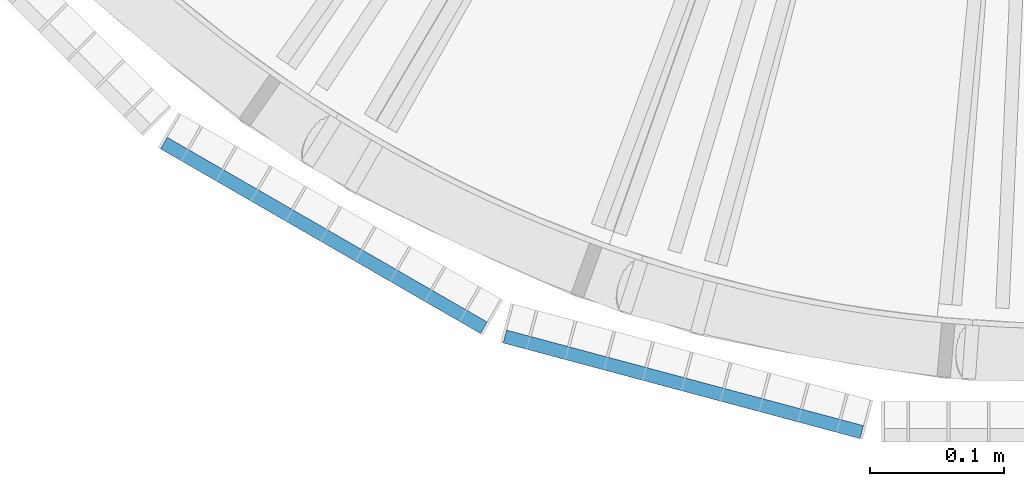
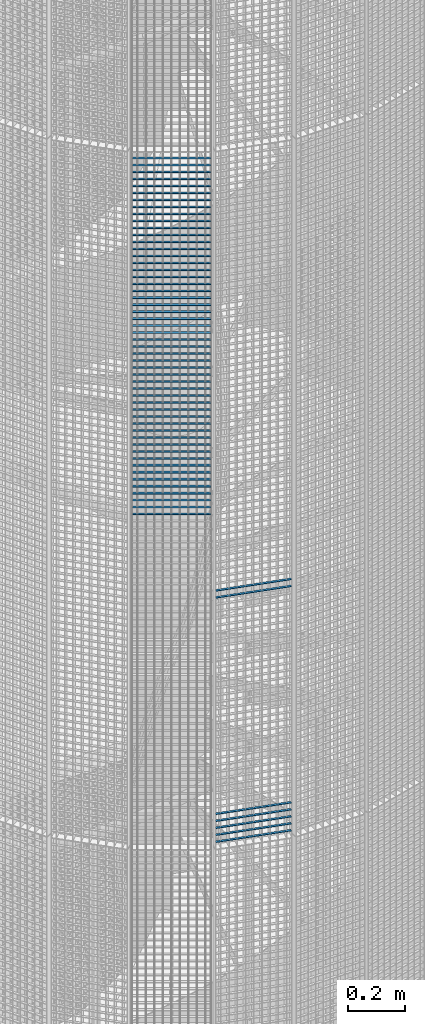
# One storey, part 153 of 1183: 59 beams, 2 elements without a shape of their own.
"""IFC2X3 building model written with IfcOpenShell, lengths in millimetres."""

import ifcopenshell
import ifcopenshell.guid

model = None  # the IFC model being written
_history = None  # IfcOwnerHistory: only IFC2X3 demands one
_inside = {}  # id of a spatial element -> (the spatial element, [elements in it])
_under = {}  # id of a project, library or spatial element -> (it, [spatial elements below it])
_declared = {}  # id of a project -> (the project, [libraries it declares])
_typed = {}  # id of a type object -> (the type object, [elements of that type])
_made_of = {}  # id of a material, layer set ... -> (it, [elements and type objects made of it])


def new_model(schema):
    """Start an empty IFC model of exactly this schema.

    Asked for "IFC4X3", IfcOpenShell would pick the latest addendum, in which some entities
    have other attributes; the version numbers below select the first issue.
    IFC2X3 requires an IfcOwnerHistory on every rooted entity: one is made here for all.
    """
    global model, _history
    if schema == "IFC4X3":
        model = ifcopenshell.file(schema_version=(4, 3, 0, 0))
    else:
        model = ifcopenshell.file(schema=schema)
    _inside.clear()
    _under.clear()
    _declared.clear()
    _typed.clear()
    _made_of.clear()
    _history = None
    if model.schema == "IFC2X3":
        org = make("IfcOrganization", Name="unknown")
        user = make(
            "IfcPersonAndOrganization",
            ThePerson=make("IfcPerson", FamilyName="unknown"),
            TheOrganization=org,
        )
        app = make(
            "IfcApplication",
            ApplicationDeveloper=org,
            Version="unknown",
            ApplicationFullName="unknown",
            ApplicationIdentifier="unknown",
        )
        _history = make(
            "IfcOwnerHistory",
            OwningUser=user,
            OwningApplication=app,
            ChangeAction="ADDED",
            CreationDate=0,
        )
    return model


def make(cls, **values):
    """One entity of the class cls with the attributes given. An attribute that is None is left unset."""
    return model.create_entity(
        cls, **{name: value for name, value in values.items() if value is not None}
    )


def rooted(cls, **values):
    """An entity with a GlobalId (a new one), such as an element, a storey or a relation."""
    return make(cls, GlobalId=ifcopenshell.guid.new(), OwnerHistory=_history, **values)


def si_unit(unit_type, name, prefix=None):
    """IfcSIUnit, for example si_unit("LENGTHUNIT", "METRE", prefix="MILLI")."""
    return make("IfcSIUnit", UnitType=unit_type, Prefix=prefix, Name=name)


def assignment(units):
    """IfcUnitAssignment: the units of a project."""
    return None if units is None else make("IfcUnitAssignment", Units=units)


def point(xyz):
    """IfcCartesianPoint."""
    return None if xyz is None else make("IfcCartesianPoint", Coordinates=xyz)


def direction(xyz):
    """IfcDirection."""
    return None if xyz is None else make("IfcDirection", DirectionRatios=xyz)


def frame(location, z_axis=None, x_axis=None):
    """IfcAxis2Placement3D, a coordinate frame: its origin and axes. An axis left out is left unset."""
    return make(
        "IfcAxis2Placement3D",
        Location=point(location),
        Axis=direction(z_axis),
        RefDirection=direction(x_axis),
    )


def frame_2d(location, x_axis=None):
    """IfcAxis2Placement2D, a coordinate frame in the plane: its origin and x axis."""
    return make(
        "IfcAxis2Placement2D", Location=point(location), RefDirection=direction(x_axis)
    )


def origin_with_axes():
    """The frame at (0, 0, 0) with the z axis (0, 0, 1) and the x axis (1, 0, 0) written out."""
    return frame((0.0, 0.0, 0.0), z_axis=(0.0, 0.0, 1.0), x_axis=(1.0, 0.0, 0.0))


def origin_2d_with_axis():
    """The frame at (0, 0) in the plane with the x axis (1, 0) written out."""
    return frame_2d((0.0, 0.0), x_axis=(1.0, 0.0))


def place(relative_to, where):
    """IfcLocalPlacement: puts the frame where relative to a parent placement (None: the world)."""
    return make(
        "IfcLocalPlacement", PlacementRelTo=relative_to, RelativePlacement=where
    )


def context(
    kind, dimensions, precision=None, world=None, true_north=None, identifier=None
):
    """IfcGeometricRepresentationContext, for example the 3D "Model" context."""
    return make(
        "IfcGeometricRepresentationContext",
        ContextIdentifier=identifier,
        ContextType=kind,
        CoordinateSpaceDimension=dimensions,
        Precision=precision,
        WorldCoordinateSystem=world,
        TrueNorth=true_north,
    )


def subcontext(parent, identifier, kind, view, scale=None):
    """IfcGeometricRepresentationSubContext, for example "Body" below "Model"."""
    return make(
        "IfcGeometricRepresentationSubContext",
        ContextIdentifier=identifier,
        ContextType=kind,
        ParentContext=parent,
        TargetScale=scale,
        TargetView=view,
    )


def project(units=None, contexts=None):
    """IfcProject with its units and contexts."""
    return rooted(
        "IfcProject",
        Name="project",
        RepresentationContexts=contexts,
        UnitsInContext=assignment(units),
    )


def spatial(cls, under=None, at=None, **own):
    """A site, building, storey or space (cls), placed at a placement, below another one or the project."""
    s = rooted(cls, ObjectPlacement=at, **own)
    if under is not None:
        _under.setdefault(under.id(), (under, []))[1].append(s)
    return s


def profile(cls, at=None, kind="AREA", **sizes):
    """A parametric profile (cls). Its sizes go by their IFC names, for example OverallWidth=200.0."""
    return make(cls, ProfileType=kind, Position=at, **sizes)


def rectangle(**sizes):
    """IfcRectangleProfileDef."""
    return profile("IfcRectangleProfileDef", **sizes)


def extrude(swept, where, along, depth):
    """IfcExtrudedAreaSolid: the profile swept, set in the frame where, extruded along a direction by depth."""
    return make(
        "IfcExtrudedAreaSolid",
        SweptArea=swept,
        Position=where,
        ExtrudedDirection=direction(along),
        Depth=depth,
    )


def shape(context_of_items, identifier, shape_type, items):
    """IfcShapeRepresentation: the items that make up one representation, for example the "Body"."""
    return make(
        "IfcShapeRepresentation",
        ContextOfItems=context_of_items,
        RepresentationIdentifier=identifier,
        RepresentationType=shape_type,
        Items=items,
    )


def material(Name=None, Category=None):
    """IfcMaterial."""
    return make("IfcMaterial", Name=Name, Category=Category)


def made_of(thing, what):
    """Note that an element or type object is made of a material, layer set ...; save() writes the relation."""
    if what is not None:
        _made_of.setdefault(what.id(), (what, []))[1].append(thing)
    return thing


def type_object(cls, material=None, **own):
    """A type object (cls), such as IfcWallType, which elements share."""
    return made_of(rooted(cls, **own), material)


def element(
    cls,
    number,
    at=None,
    inside=None,
    cuts=None,
    type_object=None,
    material=None,
    context=None,
    identifier="Body",
    shape_type=None,
    held_by="IfcProductDefinitionShape",
    body=None,
    shapes=None,
    **own,
):
    """One element of the class cls, such as IfcWall. Its Tag is "e" and its number.

    at: its placement. inside: the storey or other place that contains it. cuts: it is an
    opening in that element (IfcRelVoidsElement). A single representation is given by context,
    identifier, shape_type and body (its items); several are given by shapes. held_by: the class
    of the entity that holds the representations. save() writes the other relations.
    """
    e = rooted(cls, Tag="e%d" % number, ObjectPlacement=at, **own)
    if body is not None:
        shapes = [shape(context, identifier, shape_type, body)]
    if shapes is not None:
        e.Representation = make(held_by, Representations=shapes)
    if inside is not None:
        _inside.setdefault(inside.id(), (inside, []))[1].append(e)
    if cuts is not None:
        rooted(
            "IfcRelVoidsElement", RelatingBuildingElement=cuts, RelatedOpeningElement=e
        )
    if type_object is not None:
        _typed.setdefault(type_object.id(), (type_object, []))[1].append(e)
    return made_of(e, material)


def aggregate(whole, parts):
    """IfcRelAggregates: a whole, such as a stair, and the parts it consists of."""
    return rooted("IfcRelAggregates", RelatingObject=whole, RelatedObjects=parts)


def save(model, path):
    """Write the relations noted so far, then the file.

    IfcRelAggregates (storeys below a building ...), IfcRelContainedInSpatialStructure (elements
    in a storey), IfcRelDefinesByType, IfcRelAssociatesMaterial and IfcRelDeclares: one each for
    every whole, place, type object, material and project.
    """
    for whole, parts in _under.values():
        aggregate(whole, parts)
    for where, things in _inside.values():
        rooted(
            "IfcRelContainedInSpatialStructure",
            RelatedElements=things,
            RelatingStructure=where,
        )
    for kind, things in _typed.values():
        rooted("IfcRelDefinesByType", RelatedObjects=things, RelatingType=kind)
    for what, things in _made_of.values():
        rooted("IfcRelAssociatesMaterial", RelatedObjects=things, RelatingMaterial=what)
    for by, libraries in _declared.values():
        rooted("IfcRelDeclares", RelatingContext=by, RelatedDefinitions=libraries)
    model.write(path)


model = new_model("IFC2X3")

# Units and contexts
model_context = context("Model", 3, precision=1e-05, world=origin_with_axes())
body_context = subcontext(model_context, "Body", "Model", "MODEL_VIEW")
ifc_project = project(units=[si_unit("LENGTHUNIT", "METRE", prefix="MILLI"), si_unit("AREAUNIT", "SQUARE_METRE"), si_unit("VOLUMEUNIT", "CUBIC_METRE"), si_unit("MASSUNIT", "GRAM", prefix="KILO"), si_unit("TIMEUNIT", "SECOND"), si_unit("PLANEANGLEUNIT", "RADIAN"), si_unit("SOLIDANGLEUNIT", "STERADIAN"), si_unit("THERMODYNAMICTEMPERATUREUNIT", "DEGREE_CELSIUS"), si_unit("LUMINOUSINTENSITYUNIT", "LUMEN")], contexts=[model_context])

# Site, building, storey
site_placement = place(None, origin_with_axes())
site = spatial("IfcSite", under=ifc_project, at=site_placement, Name="Undefined", CompositionType="ELEMENT")
building_placement = place(site_placement, origin_with_axes())
building = spatial("IfcBuilding", under=site, at=building_placement, Name="Undefined", CompositionType="ELEMENT")
storey_placement = place(building_placement, origin_with_axes())
storey = spatial("IfcBuildingStorey", under=building, at=storey_placement, Name="Undefined", CompositionType="ELEMENT", Elevation=0.0)

# Assembly, beams
assembly_1_placement = place(storey_placement, origin_with_axes())
assembly_1 = element("IfcElementAssembly", 1, at=assembly_1_placement, inside=storey, Name="BORDURE", AssemblyPlace="NOTDEFINED", PredefinedType="NOTDEFINED")
ifc_material = material(Name="STEEL/S235JR")
beam_type = type_object("IfcBeamType", Name="PL2*10", PredefinedType="NOTDEFINED")
beam_1_placement = place(assembly_1_placement, frame((-421.483733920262, -1039.82309522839, 9150.0), z_axis=(-0.258819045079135, -0.965925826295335, 0.0), x_axis=(0.965925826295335, -0.258819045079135, 0.0)))
beam_1 = element("IfcBeam", 2, at=beam_1_placement, type_object=beam_type, material=ifc_material, Name="ENTRETOISE", context=body_context, shape_type="SweptSolid", body=[
    extrude(rectangle(XDim=2.0, YDim=10.0, at=origin_2d_with_axis()), frame((275.999999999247, 9.09494701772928e-13, 1.53210777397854e-14), z_axis=(-1.0, 0.0, 0.0), x_axis=(0.0, -1.0, 0.0)), (0.0, 0.0, 1.0), 276.0),
])
beam_2_placement = place(assembly_1_placement, frame((-421.483733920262, -1039.82309522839, 9120.0), z_axis=(-0.258819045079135, -0.965925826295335, 0.0), x_axis=(0.965925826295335, -0.258819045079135, 0.0)))
beam_2 = element("IfcBeam", 3, at=beam_2_placement, type_object=beam_type, material=ifc_material, Name="ENTRETOISE", context=body_context, shape_type="SweptSolid", body=[
    extrude(rectangle(XDim=2.0, YDim=10.0, at=origin_2d_with_axis()), frame((275.999999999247, 9.09494701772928e-13, 1.53210777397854e-14), z_axis=(-1.0, 0.0, 0.0), x_axis=(0.0, -1.0, 0.0)), (0.0, 0.0, 1.0), 276.0),
])
beam_3_placement = place(assembly_1_placement, frame((-421.483733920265, -1039.82309522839, 10080.0), z_axis=(-0.258819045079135, -0.965925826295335, 0.0), x_axis=(0.965925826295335, -0.258819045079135, 0.0)))
beam_3 = element("IfcBeam", 4, at=beam_3_placement, type_object=beam_type, material=ifc_material, Name="ENTRETOISE", context=body_context, shape_type="SweptSolid", body=[
    extrude(rectangle(XDim=2.0, YDim=10.0, at=origin_2d_with_axis()), frame((275.999999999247, 9.09494701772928e-13, 1.53210777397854e-14), z_axis=(-1.0, 0.0, 0.0), x_axis=(0.0, -1.0, 0.0)), (0.0, 0.0, 1.0), 276.0),
])
beam_4_placement = place(assembly_1_placement, frame((-421.483733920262, -1039.82309522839, 9090.0), z_axis=(-0.258819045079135, -0.965925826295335, 0.0), x_axis=(0.965925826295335, -0.258819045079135, 0.0)))
beam_4 = element("IfcBeam", 5, at=beam_4_placement, type_object=beam_type, material=ifc_material, Name="ENTRETOISE", context=body_context, shape_type="SweptSolid", body=[
    extrude(rectangle(XDim=2.0, YDim=10.0, at=origin_2d_with_axis()), frame((275.999999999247, 9.09494701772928e-13, 1.53210777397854e-14), z_axis=(-1.0, 0.0, 0.0), x_axis=(0.0, -1.0, 0.0)), (0.0, 0.0, 1.0), 276.0),
])
beam_5_placement = place(assembly_1_placement, frame((-421.483733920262, -1039.82309522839, 9060.0), z_axis=(-0.258819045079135, -0.965925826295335, 0.0), x_axis=(0.965925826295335, -0.258819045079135, 0.0)))
beam_5 = element("IfcBeam", 6, at=beam_5_placement, type_object=beam_type, material=ifc_material, Name="ENTRETOISE", context=body_context, shape_type="SweptSolid", body=[
    extrude(rectangle(XDim=2.0, YDim=10.0, at=origin_2d_with_axis()), frame((275.999999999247, 9.09494701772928e-13, 1.53210777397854e-14), z_axis=(-1.0, 0.0, 0.0), x_axis=(0.0, -1.0, 0.0)), (0.0, 0.0, 1.0), 276.0),
])
beam_6_placement = place(assembly_1_placement, frame((-421.483733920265, -1039.82309522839, 10110.0), z_axis=(-0.258819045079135, -0.965925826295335, 0.0), x_axis=(0.965925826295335, -0.258819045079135, 0.0)))
beam_6 = element("IfcBeam", 7, at=beam_6_placement, type_object=beam_type, material=ifc_material, Name="ENTRETOISE", context=body_context, shape_type="SweptSolid", body=[
    extrude(rectangle(XDim=2.0, YDim=10.0, at=origin_2d_with_axis()), frame((275.999999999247, 9.09494701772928e-13, 1.53210777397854e-14), z_axis=(-1.0, 0.0, 0.0), x_axis=(0.0, -1.0, 0.0)), (0.0, 0.0, 1.0), 276.0),
])
beam_7_placement = place(assembly_1_placement, frame((-421.48373392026, -1039.82309522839, 9030.0), z_axis=(-0.258819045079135, -0.965925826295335, 0.0), x_axis=(0.965925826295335, -0.258819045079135, 0.0)))
beam_7 = element("IfcBeam", 8, at=beam_7_placement, type_object=beam_type, material=ifc_material, Name="ENTRETOISE", context=body_context, shape_type="SweptSolid", body=[
    extrude(rectangle(XDim=2.0, YDim=10.0, at=origin_2d_with_axis()), frame((275.999999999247, 9.09494701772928e-13, 1.53210777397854e-14), z_axis=(-1.0, 0.0, 0.0), x_axis=(0.0, -1.0, 0.0)), (0.0, 0.0, 1.0), 276.0),
])
aggregate(assembly_1, [beam_1, beam_2, beam_3, beam_4, beam_5, beam_6, beam_7])

assembly_2_placement = place(storey_placement, origin_with_axes())
assembly_2 = element("IfcElementAssembly", 9, at=assembly_2_placement, inside=storey, Name="BORDURE", AssemblyPlace="NOTDEFINED", PredefinedType="NOTDEFINED")
beam_8_placement = place(assembly_2_placement, frame((-676.248044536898, -895.303964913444, 11970.0), z_axis=(-0.49999999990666, -0.866025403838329, 0.0), x_axis=(0.866025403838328, -0.49999999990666, 0.0)))
beam_8 = element("IfcBeam", 10, at=beam_8_placement, type_object=beam_type, material=ifc_material, Name="ENTRETOISE", context=body_context, shape_type="SweptSolid", body=[
    extrude(rectangle(XDim=2.0, YDim=10.0, at=origin_2d_with_axis()), frame((275.999999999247, 9.09494701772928e-13, 1.53210777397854e-14), z_axis=(-1.0, 0.0, 0.0), x_axis=(0.0, -1.0, 0.0)), (0.0, 0.0, 1.0), 276.0),
])
beam_9_placement = place(assembly_2_placement, frame((-676.248044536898, -895.303964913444, 11940.0), z_axis=(-0.49999999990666, -0.866025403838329, 0.0), x_axis=(0.866025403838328, -0.49999999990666, 0.0)))
beam_9 = element("IfcBeam", 11, at=beam_9_placement, type_object=beam_type, material=ifc_material, Name="ENTRETOISE", context=body_context, shape_type="SweptSolid", body=[
    extrude(rectangle(XDim=2.0, YDim=10.0, at=origin_2d_with_axis()), frame((275.999999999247, 9.09494701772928e-13, 1.53210777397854e-14), z_axis=(-1.0, 0.0, 0.0), x_axis=(0.0, -1.0, 0.0)), (0.0, 0.0, 1.0), 276.0),
])
beam_10_placement = place(assembly_2_placement, frame((-676.248044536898, -895.303964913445, 11910.0), z_axis=(-0.49999999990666, -0.866025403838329, 0.0), x_axis=(0.866025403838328, -0.49999999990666, 0.0)))
beam_10 = element("IfcBeam", 12, at=beam_10_placement, type_object=beam_type, material=ifc_material, Name="ENTRETOISE", context=body_context, shape_type="SweptSolid", body=[
    extrude(rectangle(XDim=2.0, YDim=10.0, at=origin_2d_with_axis()), frame((275.999999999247, 9.09494701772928e-13, 1.53210777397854e-14), z_axis=(-1.0, 0.0, 0.0), x_axis=(0.0, -1.0, 0.0)), (0.0, 0.0, 1.0), 276.0),
])
beam_11_placement = place(assembly_2_placement, frame((-676.248044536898, -895.303964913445, 11880.0), z_axis=(-0.49999999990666, -0.866025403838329, 0.0), x_axis=(0.866025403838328, -0.49999999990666, 0.0)))
beam_11 = element("IfcBeam", 13, at=beam_11_placement, type_object=beam_type, material=ifc_material, Name="ENTRETOISE", context=body_context, shape_type="SweptSolid", body=[
    extrude(rectangle(XDim=2.0, YDim=10.0, at=origin_2d_with_axis()), frame((275.999999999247, 9.09494701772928e-13, 1.53210777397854e-14), z_axis=(-1.0, 0.0, 0.0), x_axis=(0.0, -1.0, 0.0)), (0.0, 0.0, 1.0), 276.0),
])
beam_12_placement = place(assembly_2_placement, frame((-676.248044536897, -895.303964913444, 11850.0), z_axis=(-0.49999999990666, -0.866025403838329, 0.0), x_axis=(0.866025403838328, -0.49999999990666, 0.0)))
beam_12 = element("IfcBeam", 14, at=beam_12_placement, type_object=beam_type, material=ifc_material, Name="ENTRETOISE", context=body_context, shape_type="SweptSolid", body=[
    extrude(rectangle(XDim=2.0, YDim=10.0, at=origin_2d_with_axis()), frame((275.999999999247, 9.09494701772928e-13, 1.53210777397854e-14), z_axis=(-1.0, 0.0, 0.0), x_axis=(0.0, -1.0, 0.0)), (0.0, 0.0, 1.0), 276.0),
])
beam_13_placement = place(assembly_2_placement, frame((-676.248044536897, -895.303964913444, 11820.0), z_axis=(-0.49999999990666, -0.866025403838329, 0.0), x_axis=(0.866025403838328, -0.49999999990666, 0.0)))
beam_13 = element("IfcBeam", 15, at=beam_13_placement, type_object=beam_type, material=ifc_material, Name="ENTRETOISE", context=body_context, shape_type="SweptSolid", body=[
    extrude(rectangle(XDim=2.0, YDim=10.0, at=origin_2d_with_axis()), frame((275.999999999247, 9.09494701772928e-13, 1.53210777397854e-14), z_axis=(-1.0, 0.0, 0.0), x_axis=(0.0, -1.0, 0.0)), (0.0, 0.0, 1.0), 276.0),
])
beam_14_placement = place(assembly_2_placement, frame((-676.248044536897, -895.303964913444, 11790.0), z_axis=(-0.49999999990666, -0.866025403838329, 0.0), x_axis=(0.866025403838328, -0.49999999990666, 0.0)))
beam_14 = element("IfcBeam", 16, at=beam_14_placement, type_object=beam_type, material=ifc_material, Name="ENTRETOISE", context=body_context, shape_type="SweptSolid", body=[
    extrude(rectangle(XDim=2.0, YDim=10.0, at=origin_2d_with_axis()), frame((275.999999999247, 9.09494701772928e-13, 1.53210777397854e-14), z_axis=(-1.0, 0.0, 0.0), x_axis=(0.0, -1.0, 0.0)), (0.0, 0.0, 1.0), 276.0),
])
beam_15_placement = place(assembly_2_placement, frame((-676.248044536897, -895.303964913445, 11760.0), z_axis=(-0.49999999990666, -0.866025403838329, 0.0), x_axis=(0.866025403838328, -0.49999999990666, 0.0)))
beam_15 = element("IfcBeam", 17, at=beam_15_placement, type_object=beam_type, material=ifc_material, Name="ENTRETOISE", context=body_context, shape_type="SweptSolid", body=[
    extrude(rectangle(XDim=2.0, YDim=10.0, at=origin_2d_with_axis()), frame((275.999999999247, 9.09494701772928e-13, 1.53210777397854e-14), z_axis=(-1.0, 0.0, 0.0), x_axis=(0.0, -1.0, 0.0)), (0.0, 0.0, 1.0), 276.0),
])
beam_16_placement = place(assembly_2_placement, frame((-676.248044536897, -895.303964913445, 11730.0), z_axis=(-0.49999999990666, -0.866025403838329, 0.0), x_axis=(0.866025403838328, -0.49999999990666, 0.0)))
beam_16 = element("IfcBeam", 18, at=beam_16_placement, type_object=beam_type, material=ifc_material, Name="ENTRETOISE", context=body_context, shape_type="SweptSolid", body=[
    extrude(rectangle(XDim=2.0, YDim=10.0, at=origin_2d_with_axis()), frame((275.999999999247, 9.09494701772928e-13, 1.53210777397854e-14), z_axis=(-1.0, 0.0, 0.0), x_axis=(0.0, -1.0, 0.0)), (0.0, 0.0, 1.0), 276.0),
])
beam_17_placement = place(assembly_2_placement, frame((-676.248044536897, -895.303964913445, 11700.0), z_axis=(-0.49999999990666, -0.866025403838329, 0.0), x_axis=(0.866025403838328, -0.49999999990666, 0.0)))
beam_17 = element("IfcBeam", 19, at=beam_17_placement, type_object=beam_type, material=ifc_material, Name="ENTRETOISE", context=body_context, shape_type="SweptSolid", body=[
    extrude(rectangle(XDim=2.0, YDim=10.0, at=origin_2d_with_axis()), frame((275.999999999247, 9.09494701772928e-13, 1.53210777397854e-14), z_axis=(-1.0, 0.0, 0.0), x_axis=(0.0, -1.0, 0.0)), (0.0, 0.0, 1.0), 276.0),
])
beam_18_placement = place(assembly_2_placement, frame((-676.248044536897, -895.303964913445, 11670.0), z_axis=(-0.49999999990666, -0.866025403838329, 0.0), x_axis=(0.866025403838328, -0.49999999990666, 0.0)))
beam_18 = element("IfcBeam", 20, at=beam_18_placement, type_object=beam_type, material=ifc_material, Name="ENTRETOISE", context=body_context, shape_type="SweptSolid", body=[
    extrude(rectangle(XDim=2.0, YDim=10.0, at=origin_2d_with_axis()), frame((275.999999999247, 9.09494701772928e-13, 1.53210777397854e-14), z_axis=(-1.0, 0.0, 0.0), x_axis=(0.0, -1.0, 0.0)), (0.0, 0.0, 1.0), 276.0),
])
beam_19_placement = place(assembly_2_placement, frame((-676.248044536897, -895.303964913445, 11640.0), z_axis=(-0.49999999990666, -0.866025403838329, 0.0), x_axis=(0.866025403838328, -0.49999999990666, 0.0)))
beam_19 = element("IfcBeam", 21, at=beam_19_placement, type_object=beam_type, material=ifc_material, Name="ENTRETOISE", context=body_context, shape_type="SweptSolid", body=[
    extrude(rectangle(XDim=2.0, YDim=10.0, at=origin_2d_with_axis()), frame((275.999999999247, 9.09494701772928e-13, 1.53210777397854e-14), z_axis=(-1.0, 0.0, 0.0), x_axis=(0.0, -1.0, 0.0)), (0.0, 0.0, 1.0), 276.0),
])
beam_20_placement = place(assembly_2_placement, frame((-676.248044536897, -895.303964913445, 11610.0), z_axis=(-0.49999999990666, -0.866025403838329, 0.0), x_axis=(0.866025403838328, -0.49999999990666, 0.0)))
beam_20 = element("IfcBeam", 22, at=beam_20_placement, type_object=beam_type, material=ifc_material, Name="ENTRETOISE", context=body_context, shape_type="SweptSolid", body=[
    extrude(rectangle(XDim=2.0, YDim=10.0, at=origin_2d_with_axis()), frame((275.999999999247, 9.09494701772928e-13, 1.53210777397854e-14), z_axis=(-1.0, 0.0, 0.0), x_axis=(0.0, -1.0, 0.0)), (0.0, 0.0, 1.0), 276.0),
])
beam_21_placement = place(assembly_2_placement, frame((-676.248044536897, -895.303964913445, 11580.0), z_axis=(-0.49999999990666, -0.866025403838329, 0.0), x_axis=(0.866025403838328, -0.49999999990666, 0.0)))
beam_21 = element("IfcBeam", 23, at=beam_21_placement, type_object=beam_type, material=ifc_material, Name="ENTRETOISE", context=body_context, shape_type="SweptSolid", body=[
    extrude(rectangle(XDim=2.0, YDim=10.0, at=origin_2d_with_axis()), frame((275.999999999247, 9.09494701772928e-13, 1.53210777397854e-14), z_axis=(-1.0, 0.0, 0.0), x_axis=(0.0, -1.0, 0.0)), (0.0, 0.0, 1.0), 276.0),
])
beam_22_placement = place(assembly_2_placement, frame((-676.248044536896, -895.303964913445, 11550.0), z_axis=(-0.49999999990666, -0.866025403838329, 0.0), x_axis=(0.866025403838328, -0.49999999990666, 0.0)))
beam_22 = element("IfcBeam", 24, at=beam_22_placement, type_object=beam_type, material=ifc_material, Name="ENTRETOISE", context=body_context, shape_type="SweptSolid", body=[
    extrude(rectangle(XDim=2.0, YDim=10.0, at=origin_2d_with_axis()), frame((275.999999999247, 9.09494701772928e-13, 1.53210777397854e-14), z_axis=(-1.0, 0.0, 0.0), x_axis=(0.0, -1.0, 0.0)), (0.0, 0.0, 1.0), 276.0),
])
beam_23_placement = place(assembly_2_placement, frame((-676.248044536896, -895.303964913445, 11520.0), z_axis=(-0.49999999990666, -0.866025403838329, 0.0), x_axis=(0.866025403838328, -0.49999999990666, 0.0)))
beam_23 = element("IfcBeam", 25, at=beam_23_placement, type_object=beam_type, material=ifc_material, Name="ENTRETOISE", context=body_context, shape_type="SweptSolid", body=[
    extrude(rectangle(XDim=2.0, YDim=10.0, at=origin_2d_with_axis()), frame((275.999999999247, 9.09494701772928e-13, 1.53210777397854e-14), z_axis=(-1.0, 0.0, 0.0), x_axis=(0.0, -1.0, 0.0)), (0.0, 0.0, 1.0), 276.0),
])
beam_24_placement = place(assembly_2_placement, frame((-676.248044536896, -895.303964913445, 11490.0), z_axis=(-0.49999999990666, -0.866025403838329, 0.0), x_axis=(0.866025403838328, -0.49999999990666, 0.0)))
beam_24 = element("IfcBeam", 26, at=beam_24_placement, type_object=beam_type, material=ifc_material, Name="ENTRETOISE", context=body_context, shape_type="SweptSolid", body=[
    extrude(rectangle(XDim=2.0, YDim=10.0, at=origin_2d_with_axis()), frame((275.999999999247, 9.09494701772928e-13, 1.53210777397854e-14), z_axis=(-1.0, 0.0, 0.0), x_axis=(0.0, -1.0, 0.0)), (0.0, 0.0, 1.0), 276.0),
])
beam_25_placement = place(assembly_2_placement, frame((-676.248044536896, -895.303964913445, 11460.0), z_axis=(-0.49999999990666, -0.866025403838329, 0.0), x_axis=(0.866025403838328, -0.49999999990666, 0.0)))
beam_25 = element("IfcBeam", 27, at=beam_25_placement, type_object=beam_type, material=ifc_material, Name="ENTRETOISE", context=body_context, shape_type="SweptSolid", body=[
    extrude(rectangle(XDim=2.0, YDim=10.0, at=origin_2d_with_axis()), frame((275.999999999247, 9.09494701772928e-13, 1.53210777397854e-14), z_axis=(-1.0, 0.0, 0.0), x_axis=(0.0, -1.0, 0.0)), (0.0, 0.0, 1.0), 276.0),
])
beam_26_placement = place(assembly_2_placement, frame((-676.248044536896, -895.303964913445, 11430.0), z_axis=(-0.49999999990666, -0.866025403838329, 0.0), x_axis=(0.866025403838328, -0.49999999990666, 0.0)))
beam_26 = element("IfcBeam", 28, at=beam_26_placement, type_object=beam_type, material=ifc_material, Name="ENTRETOISE", context=body_context, shape_type="SweptSolid", body=[
    extrude(rectangle(XDim=2.0, YDim=10.0, at=origin_2d_with_axis()), frame((275.999999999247, 9.09494701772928e-13, 1.53210777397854e-14), z_axis=(-1.0, 0.0, 0.0), x_axis=(0.0, -1.0, 0.0)), (0.0, 0.0, 1.0), 276.0),
])
beam_27_placement = place(assembly_2_placement, frame((-676.248044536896, -895.303964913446, 11400.0), z_axis=(-0.49999999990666, -0.866025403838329, 0.0), x_axis=(0.866025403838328, -0.49999999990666, 0.0)))
beam_27 = element("IfcBeam", 29, at=beam_27_placement, type_object=beam_type, material=ifc_material, Name="ENTRETOISE", context=body_context, shape_type="SweptSolid", body=[
    extrude(rectangle(XDim=2.0, YDim=10.0, at=origin_2d_with_axis()), frame((275.999999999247, 9.09494701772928e-13, 1.53210777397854e-14), z_axis=(-1.0, 0.0, 0.0), x_axis=(0.0, -1.0, 0.0)), (0.0, 0.0, 1.0), 276.0),
])
beam_28_placement = place(assembly_2_placement, frame((-676.248044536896, -895.303964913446, 11370.0), z_axis=(-0.49999999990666, -0.866025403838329, 0.0), x_axis=(0.866025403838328, -0.49999999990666, 0.0)))
beam_28 = element("IfcBeam", 30, at=beam_28_placement, type_object=beam_type, material=ifc_material, Name="ENTRETOISE", context=body_context, shape_type="SweptSolid", body=[
    extrude(rectangle(XDim=2.0, YDim=10.0, at=origin_2d_with_axis()), frame((275.999999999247, 9.09494701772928e-13, 1.53210777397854e-14), z_axis=(-1.0, 0.0, 0.0), x_axis=(0.0, -1.0, 0.0)), (0.0, 0.0, 1.0), 276.0),
])
beam_29_placement = place(assembly_2_placement, frame((-676.248044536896, -895.303964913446, 11340.0), z_axis=(-0.49999999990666, -0.866025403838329, 0.0), x_axis=(0.866025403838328, -0.49999999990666, 0.0)))
beam_29 = element("IfcBeam", 31, at=beam_29_placement, type_object=beam_type, material=ifc_material, Name="ENTRETOISE", context=body_context, shape_type="SweptSolid", body=[
    extrude(rectangle(XDim=2.0, YDim=10.0, at=origin_2d_with_axis()), frame((275.999999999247, 9.09494701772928e-13, 1.53210777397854e-14), z_axis=(-1.0, 0.0, 0.0), x_axis=(0.0, -1.0, 0.0)), (0.0, 0.0, 1.0), 276.0),
])
beam_30_placement = place(assembly_2_placement, frame((-676.248044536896, -895.303964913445, 11310.0), z_axis=(-0.49999999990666, -0.866025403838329, 0.0), x_axis=(0.866025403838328, -0.49999999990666, 0.0)))
beam_30 = element("IfcBeam", 32, at=beam_30_placement, type_object=beam_type, material=ifc_material, Name="ENTRETOISE", context=body_context, shape_type="SweptSolid", body=[
    extrude(rectangle(XDim=2.0, YDim=10.0, at=origin_2d_with_axis()), frame((275.999999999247, 9.09494701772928e-13, 1.53210777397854e-14), z_axis=(-1.0, 0.0, 0.0), x_axis=(0.0, -1.0, 0.0)), (0.0, 0.0, 1.0), 276.0),
])
beam_31_placement = place(assembly_2_placement, frame((-676.248044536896, -895.303964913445, 11280.0), z_axis=(-0.49999999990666, -0.866025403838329, 0.0), x_axis=(0.866025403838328, -0.49999999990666, 0.0)))
beam_31 = element("IfcBeam", 33, at=beam_31_placement, type_object=beam_type, material=ifc_material, Name="ENTRETOISE", context=body_context, shape_type="SweptSolid", body=[
    extrude(rectangle(XDim=2.0, YDim=10.0, at=origin_2d_with_axis()), frame((275.999999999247, 9.09494701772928e-13, 1.53210777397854e-14), z_axis=(-1.0, 0.0, 0.0), x_axis=(0.0, -1.0, 0.0)), (0.0, 0.0, 1.0), 276.0),
])
beam_32_placement = place(assembly_2_placement, frame((-676.248044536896, -895.303964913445, 11250.0), z_axis=(-0.49999999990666, -0.866025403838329, 0.0), x_axis=(0.866025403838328, -0.49999999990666, 0.0)))
beam_32 = element("IfcBeam", 34, at=beam_32_placement, type_object=beam_type, material=ifc_material, Name="ENTRETOISE", context=body_context, shape_type="SweptSolid", body=[
    extrude(rectangle(XDim=2.0, YDim=10.0, at=origin_2d_with_axis()), frame((275.999999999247, 9.09494701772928e-13, 1.53210777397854e-14), z_axis=(-1.0, 0.0, 0.0), x_axis=(0.0, -1.0, 0.0)), (0.0, 0.0, 1.0), 276.0),
])
beam_33_placement = place(assembly_2_placement, frame((-676.248044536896, -895.303964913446, 11220.0), z_axis=(-0.49999999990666, -0.866025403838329, 0.0), x_axis=(0.866025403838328, -0.49999999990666, 0.0)))
beam_33 = element("IfcBeam", 35, at=beam_33_placement, type_object=beam_type, material=ifc_material, Name="ENTRETOISE", context=body_context, shape_type="SweptSolid", body=[
    extrude(rectangle(XDim=2.0, YDim=10.0, at=origin_2d_with_axis()), frame((275.999999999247, 9.09494701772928e-13, 1.53210777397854e-14), z_axis=(-1.0, 0.0, 0.0), x_axis=(0.0, -1.0, 0.0)), (0.0, 0.0, 1.0), 276.0),
])
beam_34_placement = place(assembly_2_placement, frame((-676.248044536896, -895.303964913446, 11190.0), z_axis=(-0.49999999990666, -0.866025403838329, 0.0), x_axis=(0.866025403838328, -0.49999999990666, 0.0)))
beam_34 = element("IfcBeam", 36, at=beam_34_placement, type_object=beam_type, material=ifc_material, Name="ENTRETOISE", context=body_context, shape_type="SweptSolid", body=[
    extrude(rectangle(XDim=2.0, YDim=10.0, at=origin_2d_with_axis()), frame((275.999999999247, 9.09494701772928e-13, 1.53210777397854e-14), z_axis=(-1.0, 0.0, 0.0), x_axis=(0.0, -1.0, 0.0)), (0.0, 0.0, 1.0), 276.0),
])
beam_35_placement = place(assembly_2_placement, frame((-676.248044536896, -895.303964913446, 11160.0), z_axis=(-0.49999999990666, -0.866025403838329, 0.0), x_axis=(0.866025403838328, -0.49999999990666, 0.0)))
beam_35 = element("IfcBeam", 37, at=beam_35_placement, type_object=beam_type, material=ifc_material, Name="ENTRETOISE", context=body_context, shape_type="SweptSolid", body=[
    extrude(rectangle(XDim=2.0, YDim=10.0, at=origin_2d_with_axis()), frame((275.999999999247, 9.09494701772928e-13, 1.53210777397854e-14), z_axis=(-1.0, 0.0, 0.0), x_axis=(0.0, -1.0, 0.0)), (0.0, 0.0, 1.0), 276.0),
])
beam_36_placement = place(assembly_2_placement, frame((-676.248044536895, -895.303964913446, 11130.0), z_axis=(-0.49999999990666, -0.866025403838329, 0.0), x_axis=(0.866025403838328, -0.49999999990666, 0.0)))
beam_36 = element("IfcBeam", 38, at=beam_36_placement, type_object=beam_type, material=ifc_material, Name="ENTRETOISE", context=body_context, shape_type="SweptSolid", body=[
    extrude(rectangle(XDim=2.0, YDim=10.0, at=origin_2d_with_axis()), frame((275.999999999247, 9.09494701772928e-13, 1.53210777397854e-14), z_axis=(-1.0, 0.0, 0.0), x_axis=(0.0, -1.0, 0.0)), (0.0, 0.0, 1.0), 276.0),
])
beam_37_placement = place(assembly_2_placement, frame((-676.248044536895, -895.303964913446, 11100.0), z_axis=(-0.49999999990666, -0.866025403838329, 0.0), x_axis=(0.866025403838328, -0.49999999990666, 0.0)))
beam_37 = element("IfcBeam", 39, at=beam_37_placement, type_object=beam_type, material=ifc_material, Name="ENTRETOISE", context=body_context, shape_type="SweptSolid", body=[
    extrude(rectangle(XDim=2.0, YDim=10.0, at=origin_2d_with_axis()), frame((275.999999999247, 9.09494701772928e-13, 1.53210777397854e-14), z_axis=(-1.0, 0.0, 0.0), x_axis=(0.0, -1.0, 0.0)), (0.0, 0.0, 1.0), 276.0),
])
beam_38_placement = place(assembly_2_placement, frame((-676.248044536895, -895.303964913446, 11070.0), z_axis=(-0.49999999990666, -0.866025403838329, 0.0), x_axis=(0.866025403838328, -0.49999999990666, 0.0)))
beam_38 = element("IfcBeam", 40, at=beam_38_placement, type_object=beam_type, material=ifc_material, Name="ENTRETOISE", context=body_context, shape_type="SweptSolid", body=[
    extrude(rectangle(XDim=2.0, YDim=10.0, at=origin_2d_with_axis()), frame((275.999999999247, 9.09494701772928e-13, 1.53210777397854e-14), z_axis=(-1.0, 0.0, 0.0), x_axis=(0.0, -1.0, 0.0)), (0.0, 0.0, 1.0), 276.0),
])
beam_39_placement = place(assembly_2_placement, frame((-676.248044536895, -895.303964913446, 11040.0), z_axis=(-0.49999999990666, -0.866025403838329, 0.0), x_axis=(0.866025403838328, -0.49999999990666, 0.0)))
beam_39 = element("IfcBeam", 41, at=beam_39_placement, type_object=beam_type, material=ifc_material, Name="ENTRETOISE", context=body_context, shape_type="SweptSolid", body=[
    extrude(rectangle(XDim=2.0, YDim=10.0, at=origin_2d_with_axis()), frame((275.999999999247, 9.09494701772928e-13, 1.53210777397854e-14), z_axis=(-1.0, 0.0, 0.0), x_axis=(0.0, -1.0, 0.0)), (0.0, 0.0, 1.0), 276.0),
])
beam_40_placement = place(assembly_2_placement, frame((-676.248044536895, -895.303964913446, 11010.0), z_axis=(-0.49999999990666, -0.866025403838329, 0.0), x_axis=(0.866025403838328, -0.49999999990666, 0.0)))
beam_40 = element("IfcBeam", 42, at=beam_40_placement, type_object=beam_type, material=ifc_material, Name="ENTRETOISE", context=body_context, shape_type="SweptSolid", body=[
    extrude(rectangle(XDim=2.0, YDim=10.0, at=origin_2d_with_axis()), frame((275.999999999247, 9.09494701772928e-13, 1.53210777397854e-14), z_axis=(-1.0, 0.0, 0.0), x_axis=(0.0, -1.0, 0.0)), (0.0, 0.0, 1.0), 276.0),
])
beam_41_placement = place(assembly_2_placement, frame((-676.248044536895, -895.303964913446, 10980.0), z_axis=(-0.49999999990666, -0.866025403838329, 0.0), x_axis=(0.866025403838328, -0.49999999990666, 0.0)))
beam_41 = element("IfcBeam", 43, at=beam_41_placement, type_object=beam_type, material=ifc_material, Name="ENTRETOISE", context=body_context, shape_type="SweptSolid", body=[
    extrude(rectangle(XDim=2.0, YDim=10.0, at=origin_2d_with_axis()), frame((275.999999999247, 9.09494701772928e-13, 1.53210777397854e-14), z_axis=(-1.0, 0.0, 0.0), x_axis=(0.0, -1.0, 0.0)), (0.0, 0.0, 1.0), 276.0),
])
beam_42_placement = place(assembly_2_placement, frame((-676.248044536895, -895.303964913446, 10950.0), z_axis=(-0.49999999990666, -0.866025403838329, 0.0), x_axis=(0.866025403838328, -0.49999999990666, 0.0)))
beam_42 = element("IfcBeam", 44, at=beam_42_placement, type_object=beam_type, material=ifc_material, Name="ENTRETOISE", context=body_context, shape_type="SweptSolid", body=[
    extrude(rectangle(XDim=2.0, YDim=10.0, at=origin_2d_with_axis()), frame((275.999999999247, 9.09494701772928e-13, 1.53210777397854e-14), z_axis=(-1.0, 0.0, 0.0), x_axis=(0.0, -1.0, 0.0)), (0.0, 0.0, 1.0), 276.0),
])
beam_43_placement = place(assembly_2_placement, frame((-676.248044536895, -895.303964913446, 10920.0), z_axis=(-0.49999999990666, -0.866025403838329, 0.0), x_axis=(0.866025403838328, -0.49999999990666, 0.0)))
beam_43 = element("IfcBeam", 45, at=beam_43_placement, type_object=beam_type, material=ifc_material, Name="ENTRETOISE", context=body_context, shape_type="SweptSolid", body=[
    extrude(rectangle(XDim=2.0, YDim=10.0, at=origin_2d_with_axis()), frame((275.999999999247, 9.09494701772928e-13, 1.53210777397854e-14), z_axis=(-1.0, 0.0, 0.0), x_axis=(0.0, -1.0, 0.0)), (0.0, 0.0, 1.0), 276.0),
])
beam_44_placement = place(assembly_2_placement, frame((-676.248044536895, -895.303964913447, 10890.0), z_axis=(-0.49999999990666, -0.866025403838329, 0.0), x_axis=(0.866025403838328, -0.49999999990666, 0.0)))
beam_44 = element("IfcBeam", 46, at=beam_44_placement, type_object=beam_type, material=ifc_material, Name="ENTRETOISE", context=body_context, shape_type="SweptSolid", body=[
    extrude(rectangle(XDim=2.0, YDim=10.0, at=origin_2d_with_axis()), frame((275.999999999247, 9.09494701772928e-13, 1.53210777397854e-14), z_axis=(-1.0, 0.0, 0.0), x_axis=(0.0, -1.0, 0.0)), (0.0, 0.0, 1.0), 276.0),
])
beam_45_placement = place(assembly_2_placement, frame((-676.248044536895, -895.303964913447, 10860.0), z_axis=(-0.49999999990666, -0.866025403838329, 0.0), x_axis=(0.866025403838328, -0.49999999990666, 0.0)))
beam_45 = element("IfcBeam", 47, at=beam_45_placement, type_object=beam_type, material=ifc_material, Name="ENTRETOISE", context=body_context, shape_type="SweptSolid", body=[
    extrude(rectangle(XDim=2.0, YDim=10.0, at=origin_2d_with_axis()), frame((275.999999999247, 9.09494701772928e-13, 1.53210777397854e-14), z_axis=(-1.0, 0.0, 0.0), x_axis=(0.0, -1.0, 0.0)), (0.0, 0.0, 1.0), 276.0),
])
beam_46_placement = place(assembly_2_placement, frame((-676.248044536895, -895.303964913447, 10830.0), z_axis=(-0.49999999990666, -0.866025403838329, 0.0), x_axis=(0.866025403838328, -0.49999999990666, 0.0)))
beam_46 = element("IfcBeam", 48, at=beam_46_placement, type_object=beam_type, material=ifc_material, Name="ENTRETOISE", context=body_context, shape_type="SweptSolid", body=[
    extrude(rectangle(XDim=2.0, YDim=10.0, at=origin_2d_with_axis()), frame((275.999999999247, 9.09494701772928e-13, 1.53210777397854e-14), z_axis=(-1.0, 0.0, 0.0), x_axis=(0.0, -1.0, 0.0)), (0.0, 0.0, 1.0), 276.0),
])
beam_47_placement = place(assembly_2_placement, frame((-676.248044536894, -895.303964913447, 10800.0), z_axis=(-0.49999999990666, -0.866025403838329, 0.0), x_axis=(0.866025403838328, -0.49999999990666, 0.0)))
beam_47 = element("IfcBeam", 49, at=beam_47_placement, type_object=beam_type, material=ifc_material, Name="ENTRETOISE", context=body_context, shape_type="SweptSolid", body=[
    extrude(rectangle(XDim=2.0, YDim=10.0, at=origin_2d_with_axis()), frame((275.999999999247, 9.09494701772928e-13, 1.53210777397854e-14), z_axis=(-1.0, 0.0, 0.0), x_axis=(0.0, -1.0, 0.0)), (0.0, 0.0, 1.0), 276.0),
])
beam_48_placement = place(assembly_2_placement, frame((-676.248044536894, -895.303964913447, 10770.0), z_axis=(-0.49999999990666, -0.866025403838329, 0.0), x_axis=(0.866025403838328, -0.49999999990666, 0.0)))
beam_48 = element("IfcBeam", 50, at=beam_48_placement, type_object=beam_type, material=ifc_material, Name="ENTRETOISE", context=body_context, shape_type="SweptSolid", body=[
    extrude(rectangle(XDim=2.0, YDim=10.0, at=origin_2d_with_axis()), frame((275.999999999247, 9.09494701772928e-13, 1.53210777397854e-14), z_axis=(-1.0, 0.0, 0.0), x_axis=(0.0, -1.0, 0.0)), (0.0, 0.0, 1.0), 276.0),
])
beam_49_placement = place(assembly_2_placement, frame((-676.248044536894, -895.303964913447, 10740.0), z_axis=(-0.49999999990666, -0.866025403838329, 0.0), x_axis=(0.866025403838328, -0.49999999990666, 0.0)))
beam_49 = element("IfcBeam", 51, at=beam_49_placement, type_object=beam_type, material=ifc_material, Name="ENTRETOISE", context=body_context, shape_type="SweptSolid", body=[
    extrude(rectangle(XDim=2.0, YDim=10.0, at=origin_2d_with_axis()), frame((275.999999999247, 9.09494701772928e-13, 1.53210777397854e-14), z_axis=(-1.0, 0.0, 0.0), x_axis=(0.0, -1.0, 0.0)), (0.0, 0.0, 1.0), 276.0),
])
beam_50_placement = place(assembly_2_placement, frame((-676.248044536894, -895.303964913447, 10710.0), z_axis=(-0.49999999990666, -0.866025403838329, 0.0), x_axis=(0.866025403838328, -0.49999999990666, 0.0)))
beam_50 = element("IfcBeam", 52, at=beam_50_placement, type_object=beam_type, material=ifc_material, Name="ENTRETOISE", context=body_context, shape_type="SweptSolid", body=[
    extrude(rectangle(XDim=2.0, YDim=10.0, at=origin_2d_with_axis()), frame((275.999999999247, 9.09494701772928e-13, 1.53210777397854e-14), z_axis=(-1.0, 0.0, 0.0), x_axis=(0.0, -1.0, 0.0)), (0.0, 0.0, 1.0), 276.0),
])
beam_51_placement = place(assembly_2_placement, frame((-676.248044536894, -895.303964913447, 10680.0), z_axis=(-0.49999999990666, -0.866025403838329, 0.0), x_axis=(0.866025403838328, -0.49999999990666, 0.0)))
beam_51 = element("IfcBeam", 53, at=beam_51_placement, type_object=beam_type, material=ifc_material, Name="ENTRETOISE", context=body_context, shape_type="SweptSolid", body=[
    extrude(rectangle(XDim=2.0, YDim=10.0, at=origin_2d_with_axis()), frame((275.999999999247, 9.09494701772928e-13, 1.53210777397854e-14), z_axis=(-1.0, 0.0, 0.0), x_axis=(0.0, -1.0, 0.0)), (0.0, 0.0, 1.0), 276.0),
])
beam_52_placement = place(assembly_2_placement, frame((-676.248044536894, -895.303964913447, 10650.0), z_axis=(-0.49999999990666, -0.866025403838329, 0.0), x_axis=(0.866025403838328, -0.49999999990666, 0.0)))
beam_52 = element("IfcBeam", 54, at=beam_52_placement, type_object=beam_type, material=ifc_material, Name="ENTRETOISE", context=body_context, shape_type="SweptSolid", body=[
    extrude(rectangle(XDim=2.0, YDim=10.0, at=origin_2d_with_axis()), frame((275.999999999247, 9.09494701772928e-13, 1.53210777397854e-14), z_axis=(-1.0, 0.0, 0.0), x_axis=(0.0, -1.0, 0.0)), (0.0, 0.0, 1.0), 276.0),
])
beam_53_placement = place(assembly_2_placement, frame((-676.248044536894, -895.303964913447, 10620.0), z_axis=(-0.49999999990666, -0.866025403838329, 0.0), x_axis=(0.866025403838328, -0.49999999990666, 0.0)))
beam_53 = element("IfcBeam", 55, at=beam_53_placement, type_object=beam_type, material=ifc_material, Name="ENTRETOISE", context=body_context, shape_type="SweptSolid", body=[
    extrude(rectangle(XDim=2.0, YDim=10.0, at=origin_2d_with_axis()), frame((275.999999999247, 9.09494701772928e-13, 1.53210777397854e-14), z_axis=(-1.0, 0.0, 0.0), x_axis=(0.0, -1.0, 0.0)), (0.0, 0.0, 1.0), 276.0),
])
beam_54_placement = place(assembly_2_placement, frame((-676.248044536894, -895.303964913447, 10590.0), z_axis=(-0.49999999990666, -0.866025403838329, 0.0), x_axis=(0.866025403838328, -0.49999999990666, 0.0)))
beam_54 = element("IfcBeam", 56, at=beam_54_placement, type_object=beam_type, material=ifc_material, Name="ENTRETOISE", context=body_context, shape_type="SweptSolid", body=[
    extrude(rectangle(XDim=2.0, YDim=10.0, at=origin_2d_with_axis()), frame((275.999999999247, 9.09494701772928e-13, 1.53210777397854e-14), z_axis=(-1.0, 0.0, 0.0), x_axis=(0.0, -1.0, 0.0)), (0.0, 0.0, 1.0), 276.0),
])
beam_55_placement = place(assembly_2_placement, frame((-676.248044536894, -895.303964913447, 10560.0), z_axis=(-0.49999999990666, -0.866025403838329, 0.0), x_axis=(0.866025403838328, -0.49999999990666, 0.0)))
beam_55 = element("IfcBeam", 57, at=beam_55_placement, type_object=beam_type, material=ifc_material, Name="ENTRETOISE", context=body_context, shape_type="SweptSolid", body=[
    extrude(rectangle(XDim=2.0, YDim=10.0, at=origin_2d_with_axis()), frame((275.999999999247, 9.09494701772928e-13, 1.53210777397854e-14), z_axis=(-1.0, 0.0, 0.0), x_axis=(0.0, -1.0, 0.0)), (0.0, 0.0, 1.0), 276.0),
])
beam_56_placement = place(assembly_2_placement, frame((-676.248044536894, -895.303964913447, 10530.0), z_axis=(-0.49999999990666, -0.866025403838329, 0.0), x_axis=(0.866025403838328, -0.49999999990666, 0.0)))
beam_56 = element("IfcBeam", 58, at=beam_56_placement, type_object=beam_type, material=ifc_material, Name="ENTRETOISE", context=body_context, shape_type="SweptSolid", body=[
    extrude(rectangle(XDim=2.0, YDim=10.0, at=origin_2d_with_axis()), frame((275.999999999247, 9.09494701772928e-13, 1.53210777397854e-14), z_axis=(-1.0, 0.0, 0.0), x_axis=(0.0, -1.0, 0.0)), (0.0, 0.0, 1.0), 276.0),
])
beam_57_placement = place(assembly_2_placement, frame((-676.248044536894, -895.303964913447, 10500.0), z_axis=(-0.49999999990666, -0.866025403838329, 0.0), x_axis=(0.866025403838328, -0.49999999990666, 0.0)))
beam_57 = element("IfcBeam", 59, at=beam_57_placement, type_object=beam_type, material=ifc_material, Name="ENTRETOISE", context=body_context, shape_type="SweptSolid", body=[
    extrude(rectangle(XDim=2.0, YDim=10.0, at=origin_2d_with_axis()), frame((275.999999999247, 9.09494701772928e-13, 1.53210777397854e-14), z_axis=(-1.0, 0.0, 0.0), x_axis=(0.0, -1.0, 0.0)), (0.0, 0.0, 1.0), 276.0),
])
beam_58_placement = place(assembly_2_placement, frame((-676.248044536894, -895.303964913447, 10470.0), z_axis=(-0.49999999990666, -0.866025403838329, 0.0), x_axis=(0.866025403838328, -0.49999999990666, 0.0)))
beam_58 = element("IfcBeam", 60, at=beam_58_placement, type_object=beam_type, material=ifc_material, Name="ENTRETOISE", context=body_context, shape_type="SweptSolid", body=[
    extrude(rectangle(XDim=2.0, YDim=10.0, at=origin_2d_with_axis()), frame((275.999999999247, 9.09494701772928e-13, 1.53210777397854e-14), z_axis=(-1.0, 0.0, 0.0), x_axis=(0.0, -1.0, 0.0)), (0.0, 0.0, 1.0), 276.0),
])
beam_59_placement = place(assembly_2_placement, frame((-676.248044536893, -895.303964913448, 10440.0), z_axis=(-0.49999999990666, -0.866025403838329, 0.0), x_axis=(0.866025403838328, -0.49999999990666, 0.0)))
beam_59 = element("IfcBeam", 61, at=beam_59_placement, type_object=beam_type, material=ifc_material, Name="ENTRETOISE", context=body_context, shape_type="SweptSolid", body=[
    extrude(rectangle(XDim=2.0, YDim=10.0, at=origin_2d_with_axis()), frame((275.999999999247, 9.09494701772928e-13, 1.53210777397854e-14), z_axis=(-1.0, 0.0, 0.0), x_axis=(0.0, -1.0, 0.0)), (0.0, 0.0, 1.0), 276.0),
])
aggregate(assembly_2, [beam_8, beam_9, beam_10, beam_11, beam_12, beam_13, beam_14, beam_15, beam_16, beam_17, beam_18, beam_19, beam_20, beam_21, beam_22, beam_23, beam_24, beam_25, beam_26, beam_27, beam_28, beam_29, beam_30, beam_31, beam_32, beam_33, beam_34, beam_35, beam_36, beam_37, beam_38, beam_39, beam_40, beam_41, beam_42, beam_43, beam_44, beam_45, beam_46, beam_47, beam_48, beam_49, beam_50, beam_51, beam_52, beam_53, beam_54, beam_55, beam_56, beam_57, beam_58, beam_59])

save(model, "model.ifc")
